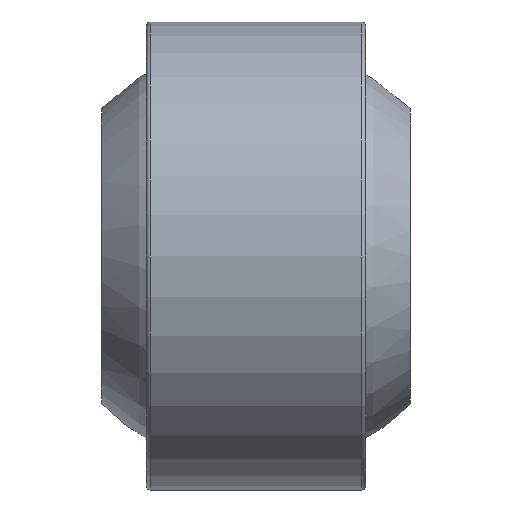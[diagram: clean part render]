
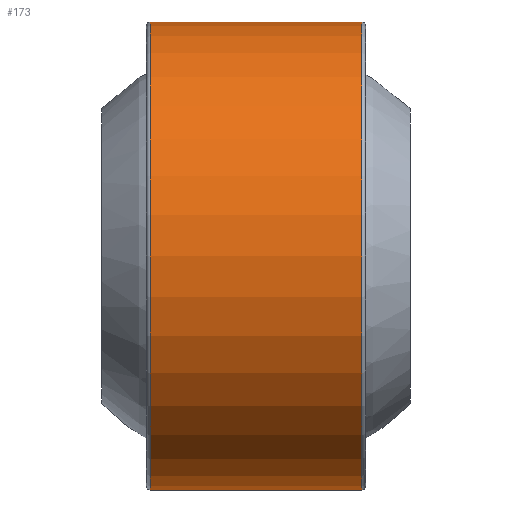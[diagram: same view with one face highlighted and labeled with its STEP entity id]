
A CAD part, front view. The second image highlights one B-rep face of the part: STEP entity #173.
In plain terms, the highlighted cylindrical face has radius 23.5 mm (diameter 47 mm), a full revolution.
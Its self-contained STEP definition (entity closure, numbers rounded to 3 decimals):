
#173 = ADVANCED_FACE( '', ( #193, #194 ), #195, .T. );
#193 = FACE_OUTER_BOUND( '', #224, .T. );
#194 = FACE_OUTER_BOUND( '', #225, .T. );
#195 = CYLINDRICAL_SURFACE( '', #226, 23.5 );
#224 = EDGE_LOOP( '', ( #262 ) );
#225 = EDGE_LOOP( '', ( #263 ) );
#226 = AXIS2_PLACEMENT_3D( '', #264, #265, #266 );
#262 = ORIENTED_EDGE( '', *, *, #297, .T. );
#263 = ORIENTED_EDGE( '', *, *, #296, .F. );
#264 = CARTESIAN_POINT( '', ( 11., 0., 0. ) );
#265 = DIRECTION( '', ( -1., 0., 0. ) );
#266 = DIRECTION( '', ( 0., 0., -1. ) );
#296 = EDGE_CURVE( '', #310, #310, #311, .T. );
#297 = EDGE_CURVE( '', #312, #312, #313, .T. );
#310 = VERTEX_POINT( '', #330 );
#311 = CIRCLE( '', #331, 23.5 );
#312 = VERTEX_POINT( '', #332 );
#313 = CIRCLE( '', #333, 23.5 );
#330 = CARTESIAN_POINT( '', ( 10.6, 0., -23.5 ) );
#331 = AXIS2_PLACEMENT_3D( '', #354, #355, #356 );
#332 = CARTESIAN_POINT( '', ( -10.6, 0., -23.5 ) );
#333 = AXIS2_PLACEMENT_3D( '', #357, #358, #359 );
#354 = CARTESIAN_POINT( '', ( 10.6, 0., 0. ) );
#355 = DIRECTION( '', ( 1., 0., 0. ) );
#356 = DIRECTION( '', ( 0., 0., -1. ) );
#357 = CARTESIAN_POINT( '', ( -10.6, 0., 0. ) );
#358 = DIRECTION( '', ( 1., 0., 0. ) );
#359 = DIRECTION( '', ( 0., 0., -1. ) );
